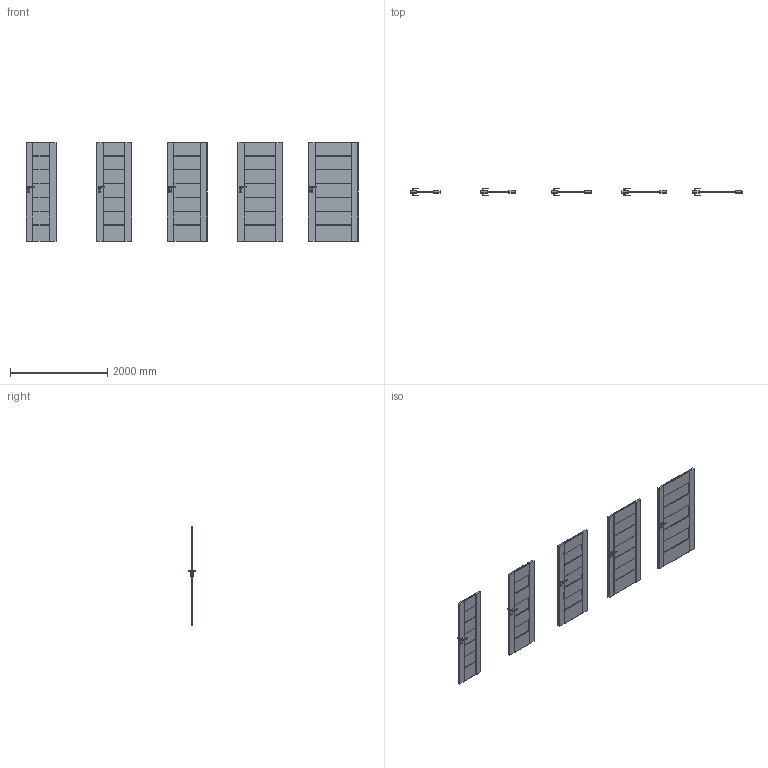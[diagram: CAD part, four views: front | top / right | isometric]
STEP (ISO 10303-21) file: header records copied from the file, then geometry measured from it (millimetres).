
FILE_DESCRIPTION(/* description */ (''),/* implementation_level */ '2;1');
FILE_NAME(/* name */ '049831_A_2-Skrzydło Koncept model K_ polska norma _PN__ bezprzylgowe..stp',/* time_stamp */ '2024-08-28T08:07:06+02:00',/* author */ (''),/* organization */ (''),/* preprocessor_version */ 'ST-DEVELOPER v16',/* originating_system */ 'SIEMENS PLM Software NX 11.0',/* authorisation */ '');
FILE_SCHEMA (('AUTOMOTIVE_DESIGN { 1 0 10303 214 3 1 1 1 }'));
Products named in the file (1): bkni4E0001DFwzkp
Bounding box: 6818 x 153.13 x 2017.01 mm (x, y, z)
Volume: 237220879.6 mm3; surface area: 18875382.4 mm2
Topology: 25 solids, 30 shells, 1890 faces, 5335 edges, 3310 vertices
Faces by surface type: plane 1120, cylinder 470, bspline 160, sphere 140
Entity records: 66006 total; most frequent: CARTESIAN_POINT 17659, ORIENTED_EDGE 10390, DIRECTION 9717, EDGE_CURVE 5195, LINE 3495, VECTOR 3495, VERTEX_POINT 3310, AXIS2_PLACEMENT_3D 3111
